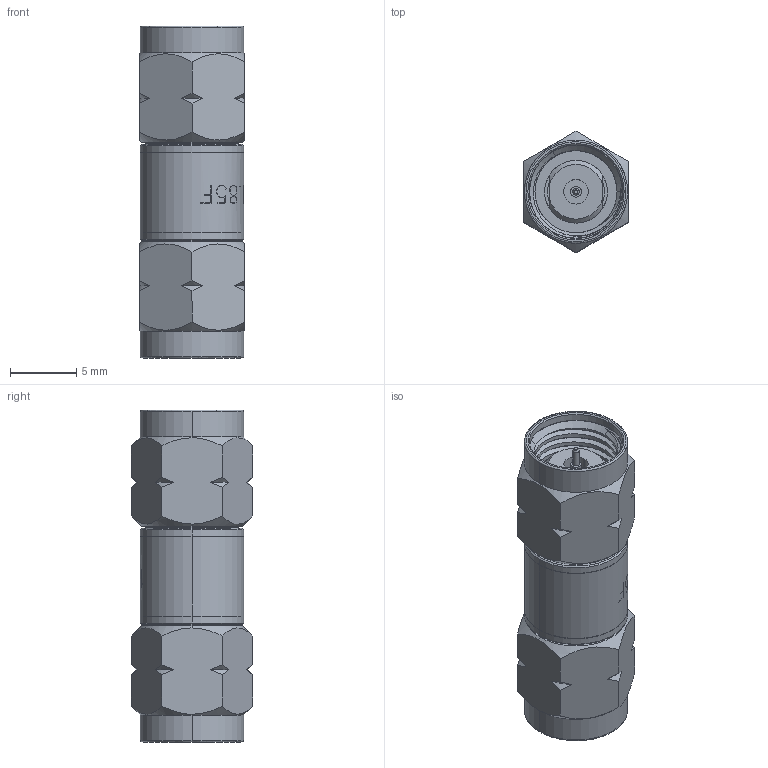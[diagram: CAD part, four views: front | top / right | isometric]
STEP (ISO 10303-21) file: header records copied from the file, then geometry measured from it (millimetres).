
FILE_DESCRIPTION (( 'STEP AP203' ), '1' );
FILE_NAME ('8127000K001-803-Cst.STEP', '2020-10-29T19:02:18', ( '' ), ( '' ), 'SwSTEP 2.0', 'SolidWorks 2019', '' );
FILE_SCHEMA (( 'CONFIG_CONTROL_DESIGN' ));
Length unit declared in the file: inch
Products named in the file (1): 8127000K001-803-Cst
Bounding box: 7.92 x 9.15 x 25.06 mm (x, y, z)
Volume: 953.5 mm3; surface area: 1605.2 mm2
Topology: 1 solids, 1 shells, 484 faces, 1296 edges, 854 vertices
Faces by surface type: bspline 174, plane 142, cylinder 105, cone 63
Entity records: 19279 total; most frequent: CARTESIAN_POINT 8319, ORIENTED_EDGE 2592, DIRECTION 1742, EDGE_CURVE 1296, VERTEX_POINT 854, AXIS2_PLACEMENT_3D 616, EDGE_LOOP 532, VECTOR 510
